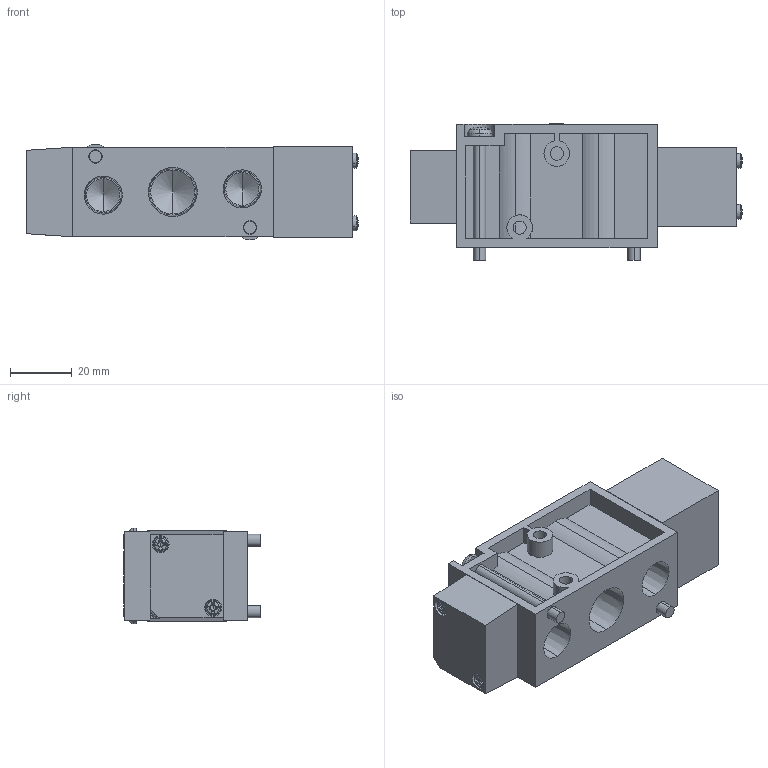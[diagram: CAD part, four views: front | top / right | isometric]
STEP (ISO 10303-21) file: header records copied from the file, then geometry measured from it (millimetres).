
FILE_DESCRIPTION (( 'STEP AP203' ), '1' );
FILE_NAME ('YCS2408-03.STEP', '2016-08-08T01:39:01', ( '' ), ( '' ), 'SwSTEP 2.0', 'SolidWorks 2014', '' );
FILE_SCHEMA (( 'CONFIG_CONTROL_DESIGN' ));
Length unit declared in the file: millimetre
Products named in the file (8): ISO 7045 - M4 x 40_9; RC08-1_9; RC08-MARK_9; YCS2408-03; PC6-M3_62; RC08-2_3; YCS-2408-03
Assembly tree (11 placements, depth 2):
  YCS2408-03
    RC08-1_9
    RC08-2_3
    (unnamed)
    PC6-M3_62  x4
    RC08-MARK_9
    ISO 7045 - M4 x 40_9  x2
    YCS-2408-03
Bounding box: 107.44 x 44.12 x 31 mm (x, y, z)
Volume: 76659.3 mm3; surface area: 27508.9 mm2
Topology: 17 solids, 17 shells, 416 faces, 1036 edges, 648 vertices
Faces by surface type: plane 223, cylinder 78, cone 68, bspline 47
Entity records: 9617 total; most frequent: CARTESIAN_POINT 2125, ORIENTED_EDGE 1356, DIRECTION 1340, EDGE_CURVE 678, AXIS2_PLACEMENT_3D 471, VERTEX_POINT 444, LINE 398, VECTOR 398
